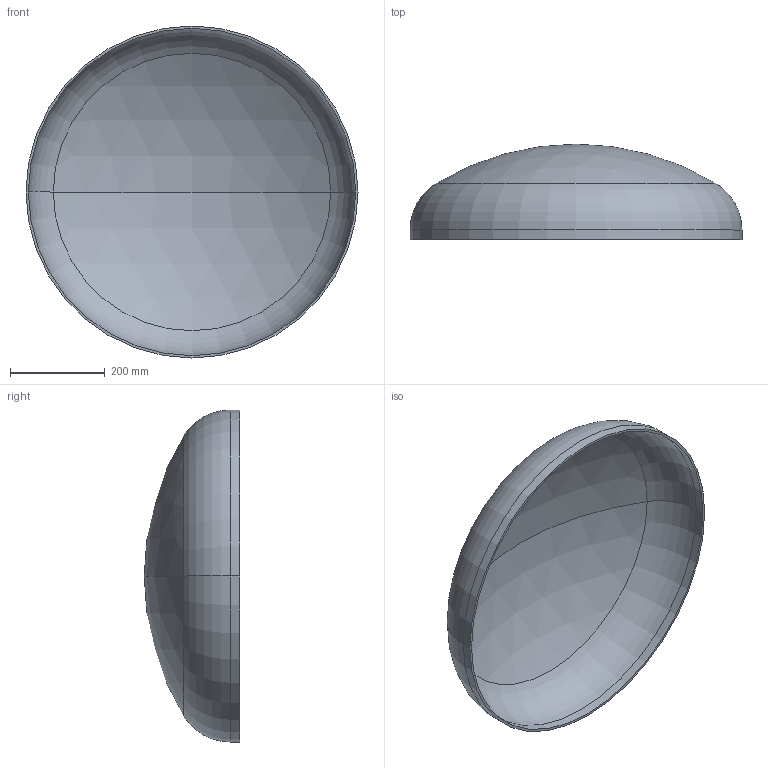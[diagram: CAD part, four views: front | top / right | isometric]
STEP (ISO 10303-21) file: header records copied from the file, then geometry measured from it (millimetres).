
FILE_DESCRIPTION (( 'STEP AP203' ), '1' );
FILE_NAME ('DIN 28013 Korbbogenform_-_Boden DIN 28013 - 700 x 20 - I - s=5.step', '2016-07-01T08:03:31', ( '' ), ( '' ), 'SwSTEP 2.0', 'SolidWorks 2013', '' );
FILE_SCHEMA (( 'CONFIG_CONTROL_DESIGN' ));
Length unit declared in the file: millimetre
Products named in the file (1): DIN 28013 Korbbogenform_-_Boden DIN 28013 - 700 x 20 - I - s=5
Bounding box: 700 x 201.24 x 700 mm (x, y, z)
Volume: 2868875.4 mm3; surface area: 1158519.1 mm2
Topology: 1 solids, 1 shells, 13 faces, 24 edges, 14 vertices
Faces by surface type: torus 4, cylinder 4, sphere 4, plane 1
Entity records: 407 total; most frequent: DIRECTION 72, CARTESIAN_POINT 52, ORIENTED_EDGE 48, AXIS2_PLACEMENT_3D 34, EDGE_CURVE 24, CIRCLE 20, EDGE_LOOP 14, VERTEX_POINT 14
